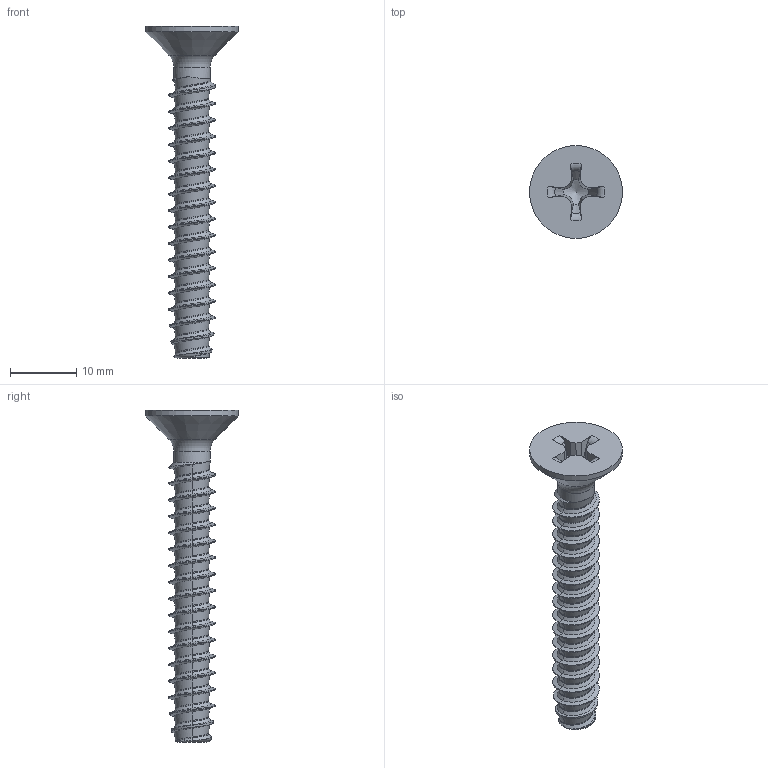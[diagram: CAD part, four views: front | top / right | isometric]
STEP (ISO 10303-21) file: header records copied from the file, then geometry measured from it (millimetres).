
FILE_DESCRIPTION(/* description */ (''),/* implementation_level */ '2;1');
FILE_NAME(/* name */ 'KN6041-STSplus-70x50-H3.step',/* time_stamp */ '2017-10-12T12:53:49+02:00',/* author */ (''),/* organization */ (''),/* preprocessor_version */ 'ST-DEVELOPER v16',/* originating_system */ 'SIEMENS PLM Software NX 10.0',/* authorisation */ '');
FILE_SCHEMA (('AUTOMOTIVE_DESIGN { 1 0 10303 214 3 1 1 1 }'));
Length unit declared in the file: millimetre
Products named in the file (1): KN6041-STSplus-70x50-H3
Bounding box: 14 x 14 x 50 mm (x, y, z)
Volume: 1496.4 mm3; surface area: 1611.5 mm2
Topology: 1 solids, 1 shells, 124 faces, 297 edges, 175 vertices
Faces by surface type: bspline 89, plane 18, cone 8, torus 6, cylinder 3
Full cylindrical faces by diameter (mm): 5.48 x1, 14 x1
Entity records: 9020 total; most frequent: CARTESIAN_POINT 6772, ORIENTED_EDGE 572, EDGE_CURVE 286, DIRECTION 226, VERTEX_POINT 171, B_SPLINE_CURVE_WITH_KNOTS 153, EDGE_LOOP 130, ADVANCED_FACE 124
